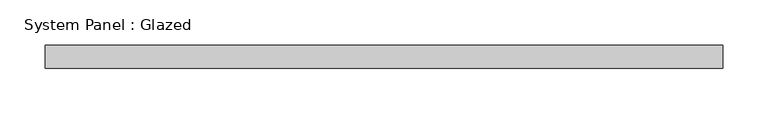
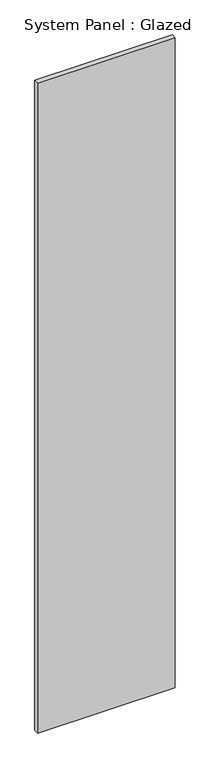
"""IFC4 building model written with IfcOpenShell, lengths in millimetres: plate geometry, System Panel : Glazed."""

from ifc_helpers import new_model, si_unit, origin, origin_with_axes, place, context, project, spatial, polyline, outline, extrude, source, transform, mapped, element, save


def system_panel_glazed_f4d1d7f7(model_context):
    return source(origin(), model_context, "Body", "SweptSolid", [
        extrude(outline(polyline([(375.1494819, 19.05), (-375.1494819, 19.05), (-375.1494819, 44.45), (375.1494819, 44.45), (375.1494819, 19.05)])), origin_with_axes(), (0.0, 0.0, 1.0), 3746.5),
    ])


if __name__ == "__main__":
    model = new_model("IFC4")
    model_context = context("Model", 3, world=origin())
    ifc_project = project(units=[si_unit("LENGTHUNIT", "METRE", prefix="MILLI")], contexts=[model_context])
    site = spatial("IfcSite", under=ifc_project)
    building = spatial("IfcBuilding", under=site)
    placement = place(None, origin())
    system_panel_glazed_shape = system_panel_glazed_f4d1d7f7(model_context)
    element("IfcPlate", 1, ObjectType="System Panel : Glazed", at=placement, inside=building, context=model_context, shape_type="MappedRepresentation", body=[
        mapped(system_panel_glazed_shape, transform((0.0, 0.0, 0.0), x_axis=(1.0, 0.0, 0.0), y_axis=(0.0, 1.0, 0.0), z_axis=(0.0, 0.0, 1.0))),
    ])
    save(model, "model.ifc")
